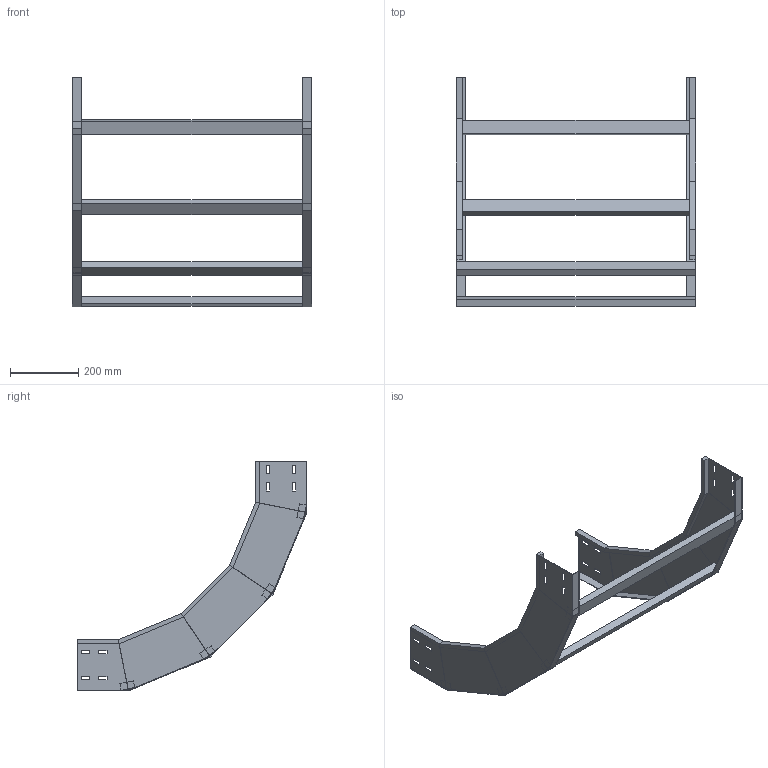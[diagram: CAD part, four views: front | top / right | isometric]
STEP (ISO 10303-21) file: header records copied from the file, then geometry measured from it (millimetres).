
FILE_DESCRIPTION (( 'STEP AP214' ), '1' );
FILE_NAME ('30J5F700.step', '2025-02-21T16:27:34', ( '' ), ( '' ), 'SwSTEP 2.0', 'SolidWorks 2023', '' );
FILE_SCHEMA (( 'AUTOMOTIVE_DESIGN' ));
Length unit declared in the file: millimetre
Products named in the file (3): LONGH.SALITA_90°_H150_R500; 30J5F700; TRAVERSINO_700
Assembly tree (6 placements, depth 2):
  30J5F700
    LONGH.SALITA_90°_H150_R500  x2
    TRAVERSINO_700  x4
Bounding box: 700 x 671.54 x 671.54 mm (x, y, z)
Volume: 3255548 mm3; surface area: 1084544.2 mm2
Topology: 6 solids, 6 shells, 172 faces, 416 edges, 256 vertices
Faces by surface type: plane 172
Entity records: 2416 total; most frequent: CARTESIAN_POINT 405, ORIENTED_EDGE 392, DIRECTION 374, LINE 196, VECTOR 196, EDGE_CURVE 196, VERTEX_POINT 120, EDGE_LOOP 96
